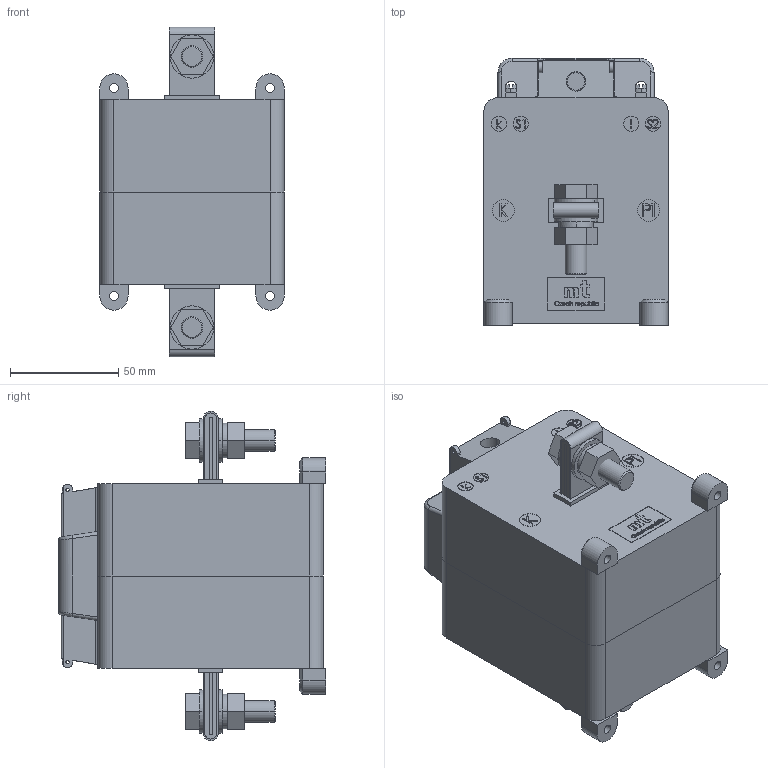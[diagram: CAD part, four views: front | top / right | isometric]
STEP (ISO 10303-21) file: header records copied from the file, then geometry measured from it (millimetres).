
FILE_DESCRIPTION (( 'STEP AP214' ), '1' );
FILE_NAME ('CLA 1.3.STEP', '2024-09-30T15:27:45', ( '' ), ( '' ), 'SwSTEP 2.0', 'SolidWorks 2024', '' );
FILE_SCHEMA (( 'AUTOMOTIVE_DESIGN' ));
Length unit declared in the file: millimetre
Products named in the file (14): Plastic mounting foot; Front plastic case CLA 1.3; Flat washer D10; Type label CLA 1.3; Back plastic case CLA 1.3; Screw M5x8; Nut M10; Secondary terminal cover CLA; Rivet 60; Screw M10x35; CLA 1.3; Strip CLA 1.3; Secondary terminal; Spring washer D10
Assembly tree (26 placements, depth 2):
  CLA 1.3
    Front plastic case CLA 1.3
    Back plastic case CLA 1.3
    Type label CLA 1.3
    Secondary terminal cover CLA
    Plastic mounting foot  x4
    Secondary terminal  x2
    Screw M5x8  x2
    Rivet 60  x3
    Strip CLA 1.3
    Flat washer D10  x4
    Screw M10x35  x2
    Spring washer D10  x2
    Nut M10  x2
Bounding box: 85 x 123.2 x 152 mm (x, y, z)
Volume: 823540.4 mm3; surface area: 146728.7 mm2
Topology: 28 solids, 31 shells, 1385 faces, 3591 edges, 2370 vertices
Faces by surface type: plane 751, bspline 317, cylinder 257, cone 40, torus 12, sphere 8
Entity records: 51459 total; most frequent: CARTESIAN_POINT 23763, ORIENTED_EDGE 6016, DIRECTION 4380, EDGE_CURVE 3008, VERTEX_POINT 1994, VECTOR 1966, LINE 1966, EDGE_LOOP 1292
